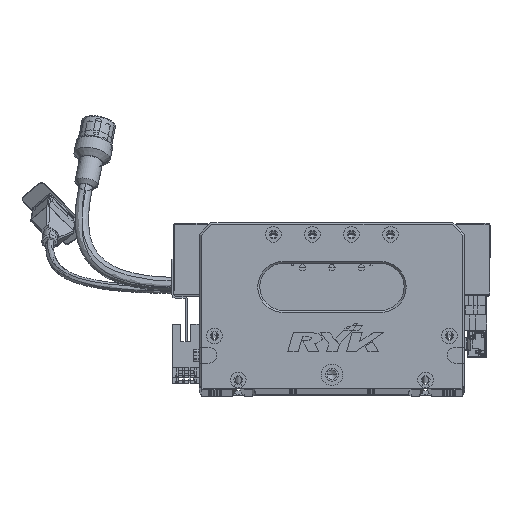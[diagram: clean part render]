
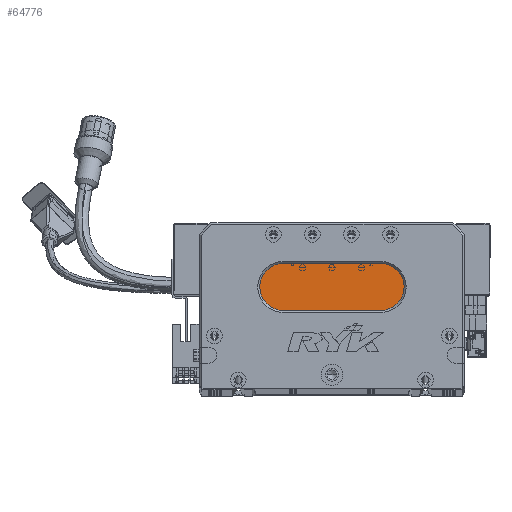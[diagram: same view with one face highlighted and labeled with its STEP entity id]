
A CAD part, top view. The second image highlights one B-rep face of the part: STEP entity #64776.
In plain terms, the highlighted planar face has unit normal (0, 0, 1) as drawn and (0, 0, -1) by its records, which use the part's own axes.
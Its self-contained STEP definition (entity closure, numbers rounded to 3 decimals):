
#3751 = CIRCLE ( 'NONE', #108634, 12. ) ;
#3810 = DIRECTION ( 'NONE',  ( -1., 0., 0. ) ) ;
#6225 = VERTEX_POINT ( 'NONE', #72423 ) ;
#8052 = CARTESIAN_POINT ( 'NONE',  ( 43., 52., 13. ) ) ;
#8255 = AXIS2_PLACEMENT_3D ( 'NONE', #55522, #11161, #3810 ) ;
#11161 = DIRECTION ( 'NONE',  ( 0., 0., -1. ) ) ;
#15122 = CIRCLE ( 'NONE', #21192, 12. ) ;
#21192 = AXIS2_PLACEMENT_3D ( 'NONE', #76895, #103950, #51119 ) ;
#22090 = ORIENTED_EDGE ( 'NONE', *, *, #100276, .T. ) ;
#28217 = CIRCLE ( 'NONE', #46579, 12. ) ;
#36350 = CARTESIAN_POINT ( 'NONE',  ( 43., 40., 13. ) ) ;
#37459 = PLANE ( 'NONE',  #8255 ) ;
#46579 = AXIS2_PLACEMENT_3D ( 'NONE', #57812, #94118, #111838 ) ;
#49344 = CARTESIAN_POINT ( 'NONE',  ( 93., 40., 13. ) ) ;
#50842 = EDGE_CURVE ( 'NONE', #70781, #63664, #100260, .T. ) ;
#51119 = DIRECTION ( 'NONE',  ( -1., 0., 0. ) ) ;
#51670 = EDGE_CURVE ( 'NONE', #63664, #57636, #15122, .T. ) ;
#52053 = DIRECTION ( 'NONE',  ( 0., 0., -1. ) ) ;
#52691 = EDGE_CURVE ( 'NONE', #57636, #108348, #3751, .T. ) ;
#55522 = CARTESIAN_POINT ( 'NONE',  ( 93., 52., 13. ) ) ;
#57636 = VERTEX_POINT ( 'NONE', #71486 ) ;
#57812 = CARTESIAN_POINT ( 'NONE',  ( 93., 52., 13. ) ) ;
#58736 = ORIENTED_EDGE ( 'NONE', *, *, #98946, .T. ) ;
#61499 = ORIENTED_EDGE ( 'NONE', *, *, #50842, .T. ) ;
#63364 = ORIENTED_EDGE ( 'NONE', *, *, #52691, .T. ) ;
#63664 = VERTEX_POINT ( 'NONE', #36350 ) ;
#64776 = ADVANCED_FACE ( 'NONE', ( #96351 ), #37459, .T. ) ;
#64959 = ORIENTED_EDGE ( 'NONE', *, *, #51670, .T. ) ;
#66949 = EDGE_LOOP ( 'NONE', ( #58736, #61499, #64959, #63364, #22090 ) ) ;
#70781 = VERTEX_POINT ( 'NONE', #71005 ) ;
#71005 = CARTESIAN_POINT ( 'NONE',  ( 93., 40., 13. ) ) ;
#71486 = CARTESIAN_POINT ( 'NONE',  ( 31., 52., 13. ) ) ;
#72423 = CARTESIAN_POINT ( 'NONE',  ( 93., 64., 13. ) ) ;
#74380 = DIRECTION ( 'NONE',  ( -1., 0., 0. ) ) ;
#76895 = CARTESIAN_POINT ( 'NONE',  ( 43., 52., 13. ) ) ;
#86458 = VECTOR ( 'NONE', #98009, 1000. ) ;
#89153 = CARTESIAN_POINT ( 'NONE',  ( 93., 64., 13. ) ) ;
#91980 = VECTOR ( 'NONE', #74380, 1000. ) ;
#94118 = DIRECTION ( 'NONE',  ( 0., 0., -1. ) ) ;
#96351 = FACE_OUTER_BOUND ( 'NONE', #66949, .T. ) ;
#97073 = CARTESIAN_POINT ( 'NONE',  ( 43., 64., 13. ) ) ;
#98009 = DIRECTION ( 'NONE',  ( 1., 0., 0. ) ) ;
#98946 = EDGE_CURVE ( 'NONE', #6225, #70781, #28217, .T. ) ;
#100260 = LINE ( 'NONE', #49344, #91980 ) ;
#100276 = EDGE_CURVE ( 'NONE', #108348, #6225, #114156, .T. ) ;
#103950 = DIRECTION ( 'NONE',  ( 0., 0., -1. ) ) ;
#108348 = VERTEX_POINT ( 'NONE', #97073 ) ;
#108634 = AXIS2_PLACEMENT_3D ( 'NONE', #8052, #52053, #113753 ) ;
#111838 = DIRECTION ( 'NONE',  ( -1., 0., 0. ) ) ;
#113753 = DIRECTION ( 'NONE',  ( -1., 0., 0. ) ) ;
#114156 = LINE ( 'NONE', #89153, #86458 ) ;
